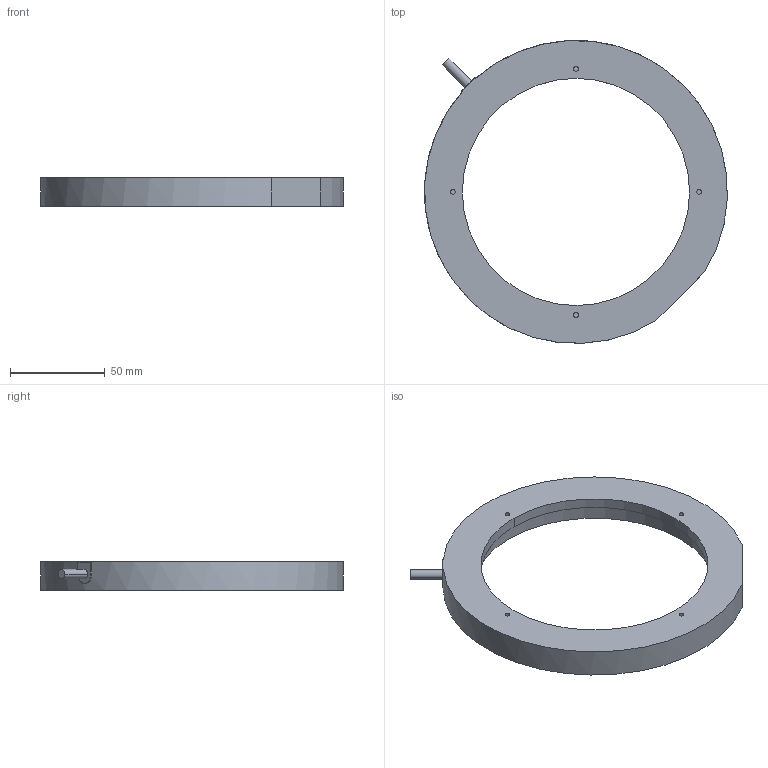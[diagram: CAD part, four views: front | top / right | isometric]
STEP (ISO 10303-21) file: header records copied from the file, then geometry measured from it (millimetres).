
FILE_DESCRIPTION((''),'2;1');
FILE_NAME('160-00','2024-03-29T17:54:28',('qiaoxuan5'),(''),'CREO PARAMETRIC BY PTC INC, 2020044','CREO PARAMETRIC BY PTC INC, 2020044','');
FILE_SCHEMA(('CONFIG_CONTROL_DESIGN'));
Length unit declared in the file: millimetre
Products named in the file (1): 160-00
Bounding box: 159.81 x 159.81 x 15 mm (x, y, z)
Volume: 118568 mm3; surface area: 31370 mm2
Topology: 1 solids, 5 shells, 204 faces, 456 edges, 270 vertices
Faces by surface type: plane 116, cylinder 61, cone 16, torus 9, sphere 2
Entity records: 5706 total; most frequent: CARTESIAN_POINT 1121, DIRECTION 966, ORIENTED_EDGE 908, EDGE_CURVE 454, AXIS2_PLACEMENT_3D 343, VECTOR 280, LINE 280, VERTEX_POINT 270
